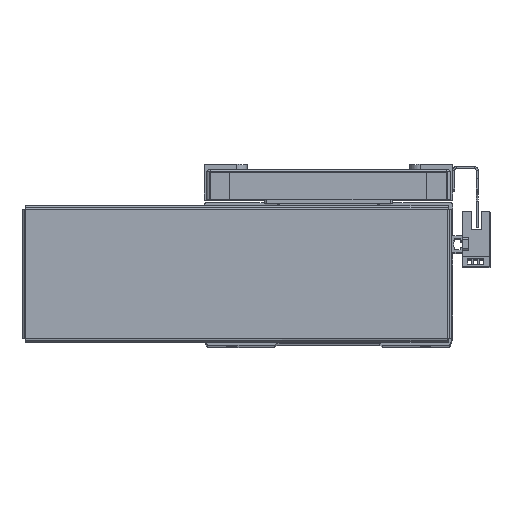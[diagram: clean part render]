
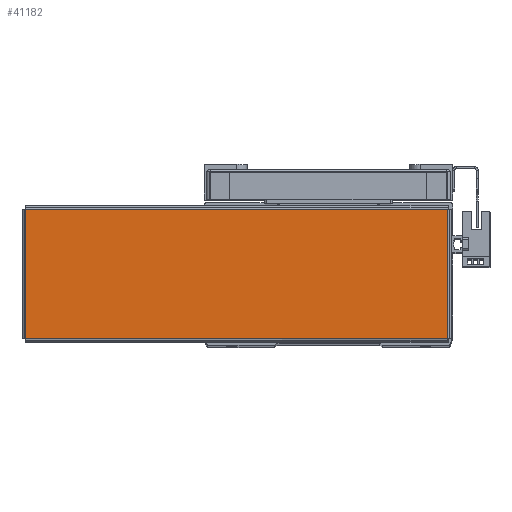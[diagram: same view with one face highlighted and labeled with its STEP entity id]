
A CAD part, top view. The second image highlights one B-rep face of the part: STEP entity #41182.
In plain terms, the highlighted planar face has unit normal (0, 0, 1) as drawn and (0, -1, 0) by its records, which use the part's own axes.
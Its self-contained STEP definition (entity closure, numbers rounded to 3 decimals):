
#1174 = DIRECTION ( 'NONE',  ( -1., 0., 0. ) ) ;
#1188 = CARTESIAN_POINT ( 'NONE',  ( 103.793, -1., 31.763 ) ) ;
#1214 = CARTESIAN_POINT ( 'NONE',  ( -103.763, -1., 31.793 ) ) ;
#1222 = DIRECTION ( 'NONE',  ( 0., 0., -1. ) ) ;
#1520 = CARTESIAN_POINT ( 'NONE',  ( -103.793, -1., -31.763 ) ) ;
#1522 = DIRECTION ( 'NONE',  ( 1., 0., 0. ) ) ;
#1584 = FACE_OUTER_BOUND ( 'NONE', #21717, .T. ) ;
#1888 = DIRECTION ( 'NONE',  ( 0., 0., 1. ) ) ;
#1924 = CARTESIAN_POINT ( 'NONE',  ( 103.763, -1., -31.793 ) ) ;
#6459 = AXIS2_PLACEMENT_3D ( 'NONE', #7542, #7530, #7572 ) ;
#7530 = DIRECTION ( 'NONE',  ( 0., 1., 0. ) ) ;
#7542 = CARTESIAN_POINT ( 'NONE',  ( 0., -1., 0. ) ) ;
#7566 = PLANE ( 'NONE',  #6459 ) ;
#7572 = DIRECTION ( 'NONE',  ( 0., 0., 1. ) ) ;
#10722 = VECTOR ( 'NONE', #1888, 1000. ) ;
#10762 = LINE ( 'NONE', #1924, #10722 ) ;
#11185 = EDGE_CURVE ( 'NONE', #45459, #45383, #15701, .T. ) ;
#11215 = EDGE_CURVE ( 'NONE', #45383, #45291, #15743, .T. ) ;
#11333 = EDGE_CURVE ( 'NONE', #45291, #45319, #14347, .T. ) ;
#11432 = EDGE_CURVE ( 'NONE', #45319, #45459, #10762, .T. ) ;
#14347 = LINE ( 'NONE', #1520, #14377 ) ;
#14377 = VECTOR ( 'NONE', #1522, 1000. ) ;
#15699 = VECTOR ( 'NONE', #1222, 1000. ) ;
#15701 = LINE ( 'NONE', #1188, #15747 ) ;
#15743 = LINE ( 'NONE', #1214, #15699 ) ;
#15747 = VECTOR ( 'NONE', #1174, 1000. ) ;
#21717 = EDGE_LOOP ( 'NONE', ( #26409, #26424, #26441, #26283 ) ) ;
#26283 = ORIENTED_EDGE ( 'NONE', *, *, #11432, .T. ) ;
#26409 = ORIENTED_EDGE ( 'NONE', *, *, #11185, .T. ) ;
#26424 = ORIENTED_EDGE ( 'NONE', *, *, #11215, .T. ) ;
#26441 = ORIENTED_EDGE ( 'NONE', *, *, #11333, .T. ) ;
#41182 = ADVANCED_FACE ( 'NONE', ( #1584 ), #7566, .F. ) ;
#45291 = VERTEX_POINT ( 'NONE', #46986 ) ;
#45319 = VERTEX_POINT ( 'NONE', #46941 ) ;
#45383 = VERTEX_POINT ( 'NONE', #46957 ) ;
#45459 = VERTEX_POINT ( 'NONE', #47059 ) ;
#46941 = CARTESIAN_POINT ( 'NONE',  ( 103.763, -1., -31.763 ) ) ;
#46957 = CARTESIAN_POINT ( 'NONE',  ( -103.763, -1., 31.763 ) ) ;
#46986 = CARTESIAN_POINT ( 'NONE',  ( -103.763, -1., -31.763 ) ) ;
#47059 = CARTESIAN_POINT ( 'NONE',  ( 103.763, -1., 31.763 ) ) ;
